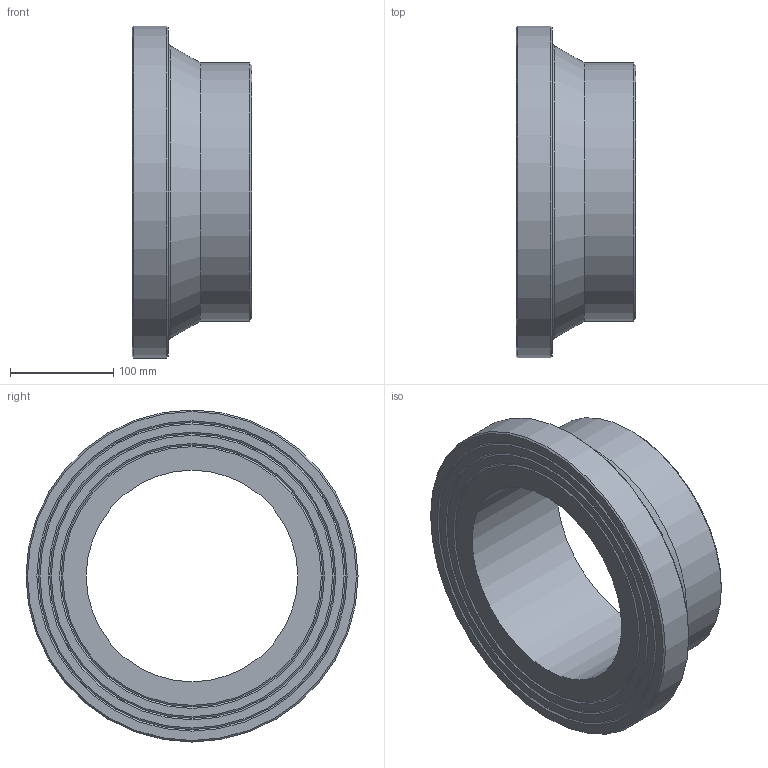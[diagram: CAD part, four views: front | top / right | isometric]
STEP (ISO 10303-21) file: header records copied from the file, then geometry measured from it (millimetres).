
FILE_DESCRIPTION(/* description */ ('Unknown'),/* implementation_level */ '2;1');
FILE_NAME(/* name */ 'CCP250C',/* time_stamp */ '2023-05-12T11:33:34+02:00',/* author */ ('Unknown'),/* organization */ ('Unknown'),/* preprocessor_version */ 'ST-DEVELOPER v18.102',/* originating_system */ 'Solid Edge',/* authorisation */ 'Unknown');
FILE_SCHEMA (('AUTOMOTIVE_DESIGN {1 0 10303 214 3 1 1}'));
Length unit declared in the file: millimetre
Products named in the file (1): CCP250C
Bounding box: 116 x 321 x 321 mm (x, y, z)
Volume: 3209554.4 mm3; surface area: 258973.4 mm2
Topology: 1 solids, 1 shells, 20 faces, 35 edges, 21 vertices
Faces by surface type: cone 10, plane 6, cylinder 3, torus 1
Full cylindrical faces by diameter (mm): 204.6 x1, 250 x1, 321 x1
Entity records: 438 total; most frequent: DIRECTION 82, CARTESIAN_POINT 61, AXIS2_PLACEMENT_3D 41, ORIENTED_EDGE 40, EDGE_LOOP 40, FACE_BOUND 40, EDGE_CURVE 20, VERTEX_POINT 20
